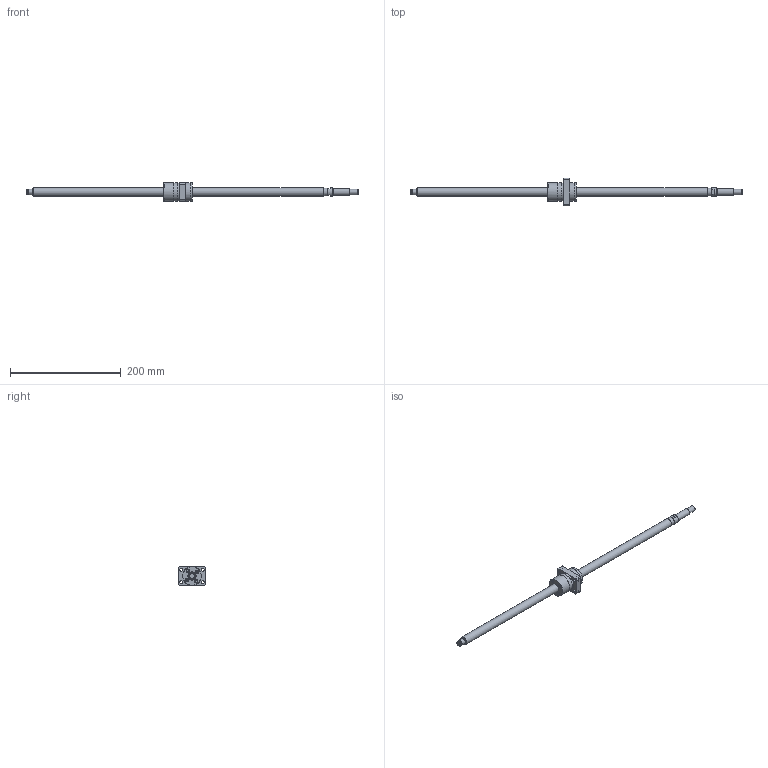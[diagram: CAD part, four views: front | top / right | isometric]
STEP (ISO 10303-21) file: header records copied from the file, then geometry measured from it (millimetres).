
FILE_DESCRIPTION(/* description */ ('STEP AP214'),/* implementation_level */ '2;1');
FILE_NAME(/* name */ 'SG1520-525R600C5B0X(236.5)',/* time_stamp */ '2026-07-24T21:03:38+02:00',/* author */ ('License CC BY-ND 4.0'),/* organization */ ('CADENAS'),/* preprocessor_version */ 'ST-DEVELOPER v20',/* originating_system */ 'PARTsolutions',/* authorisation */ ' ');
FILE_SCHEMA (('AUTOMOTIVE_DESIGN {1 0 10303 214 3 1 1}'));
Length unit declared in the file: millimetre
Products named in the file (3): SG1520-525R600C5B0X(236.5); SG1520-525R600C5B_shaft; SG1520 C5_nut
Assembly tree (2 placements, depth 2):
  SG1520-525R600C5B0X(236.5)
    SG1520-525R600C5B_shaft
    SG1520 C5_nut
Bounding box: 600 x 50 x 34 mm (x, y, z)
Volume: 144686.2 mm3; surface area: 40722.6 mm2
Topology: 2 solids, 2 shells, 121 faces, 268 edges, 173 vertices
Faces by surface type: plane 76, cylinder 36, cone 8, torus 1
Full cylindrical faces by diameter (mm): 2 x1, 4.917 x1, 5.5 x8, 9.5 x4, 9.6 x1, 10 x3, 12 x1, 14.387 x1, 15 x3, 33.5 x3, 34 x2
Entity records: 3234 total; most frequent: DIRECTION 568, CARTESIAN_POINT 532, ORIENTED_EDGE 456, EDGE_CURVE 228, AXIS2_PLACEMENT_3D 217, EDGE_LOOP 192, FACE_BOUND 192, VERTEX_POINT 170
